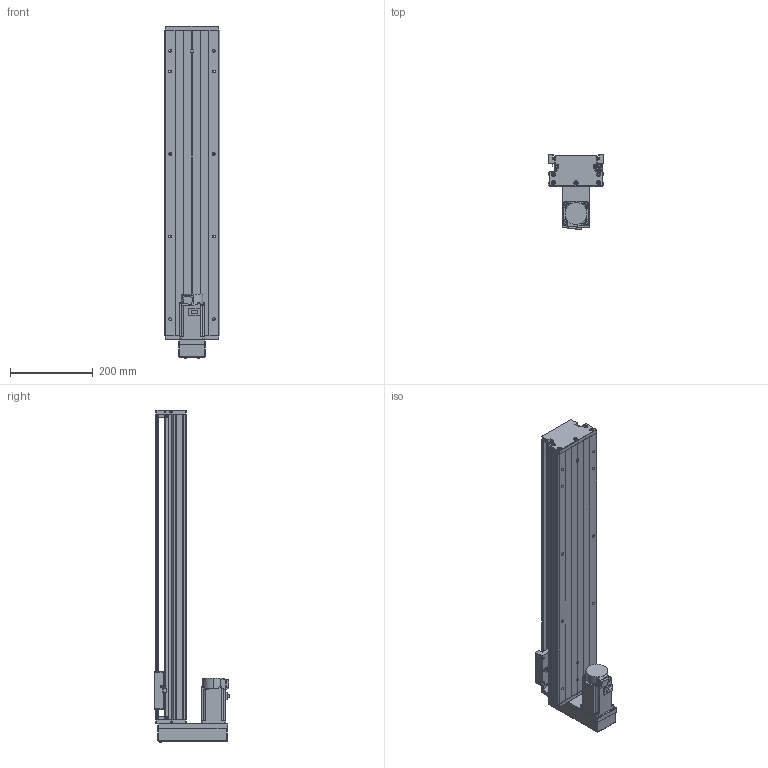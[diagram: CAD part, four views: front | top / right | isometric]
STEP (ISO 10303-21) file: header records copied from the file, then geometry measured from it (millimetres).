
FILE_DESCRIPTION (( 'STEP AP203' ), '1' );
FILE_NAME ('KTH130-600-BM-M40-C4.step', '2023-06-30T04:05:14', ( '微软用户' ), ( '微软中国' ), 'SwSTEP 2.0', 'SolidWorks 2020', '' );
FILE_SCHEMA (( 'CONFIG_CONTROL_DESIGN' ));
Length unit declared in the file: millimetre
Products named in the file (19): KTH130-005; GBT 70.1-M3℅5; GTH14-033; GB1155-6X6; GBT77-2000 M3×3; KTH130-600-BM-M40-C4; GBT70.1 M5℅16; す晦芛蹟隊 M3℅5; GBT 70.2-M3¡Á5_M3¡Á6; GBT 70.3-M3℅8; GTH14-001_600; CTHA60-017; HG-KN43J-S100; KTH130-002_KTH130-002; EE_SX911P_R; GBT 70.2-M4¡Á35_M4¡Á35; KTH130-004; CTHA60-016; GTH14-015-2_CTHA86-015-2
Assembly tree (53 placements, depth 2):
  KTH130-600-BM-M40-C4
    GTH14-001_600
    KTH130-002_KTH130-002
    KTH130-004
    KTH130-005
    GB1155-6X6  x2
    GBT70.1 M5℅16  x10
    GBT 70.2-M3¡Á5_M3¡Á6  x4
    CTHA60-017  x3
    EE_SX911P_R  x3
    CTHA60-016  x2
    GBT 70.1-M3℅5  x6
    GBT77-2000 M3×3  x6
    す晦芛蹟隊 M3℅5  x2
    GBT 70.3-M3℅8  x4
    HG-KN43J-S100
    GBT 70.2-M4¡Á35_M4¡Á35  x4
    GTH14-015-2_CTHA86-015-2
    GTH14-033
Bounding box: 135 x 181.8 x 804.2 mm (x, y, z)
Volume: 4641108.9 mm3; surface area: 766951.5 mm2
Topology: 56 solids, 56 shells, 2223 faces, 5366 edges, 3342 vertices
Faces by surface type: plane 1197, cylinder 612, cone 290, torus 100, sphere 24
Entity records: 40558 total; most frequent: CARTESIAN_POINT 8634, DIRECTION 6039, ORIENTED_EDGE 5932, EDGE_CURVE 2966, AXIS2_PLACEMENT_3D 2078, VERTEX_POINT 1895, VECTOR 1883, LINE 1883
